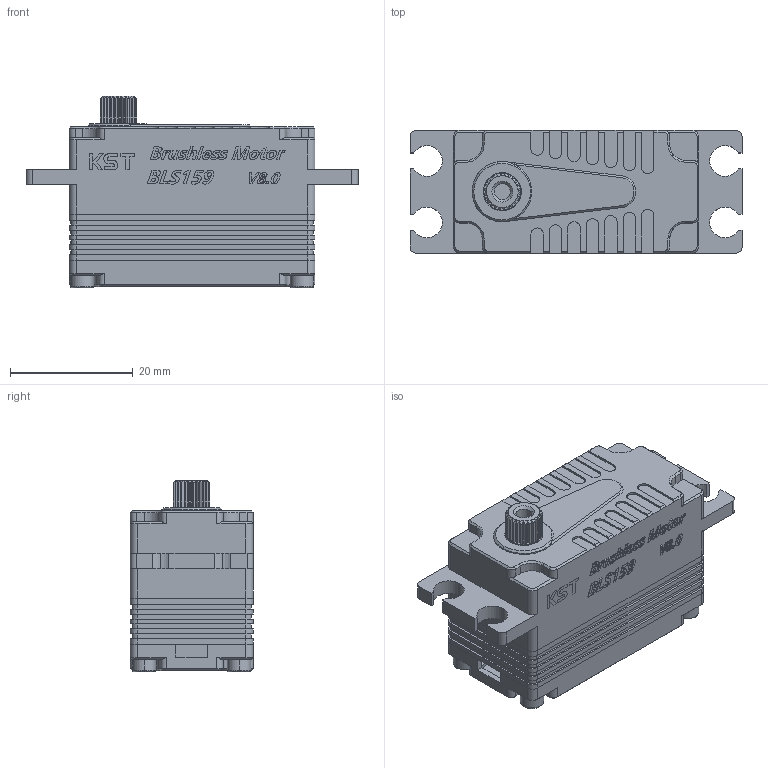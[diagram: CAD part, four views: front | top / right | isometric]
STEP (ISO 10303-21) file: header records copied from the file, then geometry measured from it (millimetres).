
FILE_DESCRIPTION (( 'STEP AP214' ), '1' );
FILE_NAME ('BLS159 V8.0_DM.STEP', '2021-04-12T06:57:06', ( '微软用户' ), ( '微软中国' ), 'SwSTEP 2.0', 'SolidWorks 2016', '' );
FILE_SCHEMA (( 'AUTOMOTIVE_DESIGN' ));
Length unit declared in the file: millimetre
Products named in the file (2): BLS159  V8.0_DM
Bounding box: 54 x 20.1 x 31.2 mm (x, y, z)
Surface area: 6902.2 mm2 (no closed solid volume)
Topology: 0 solids, 39 shells, 879 faces, 2513 edges, 1671 vertices
Faces by surface type: plane 456, cylinder 188, bspline 151, cone 76, torus 8
Entity records: 46004 total; most frequent: CARTESIAN_POINT 14751, ORIENTED_EDGE 4464, DIRECTION 4015, EDGE_CURVE 2505, VERTEX_POINT 1671, VECTOR 1553, LINE 1553, AXIS2_PLACEMENT_3D 1231
